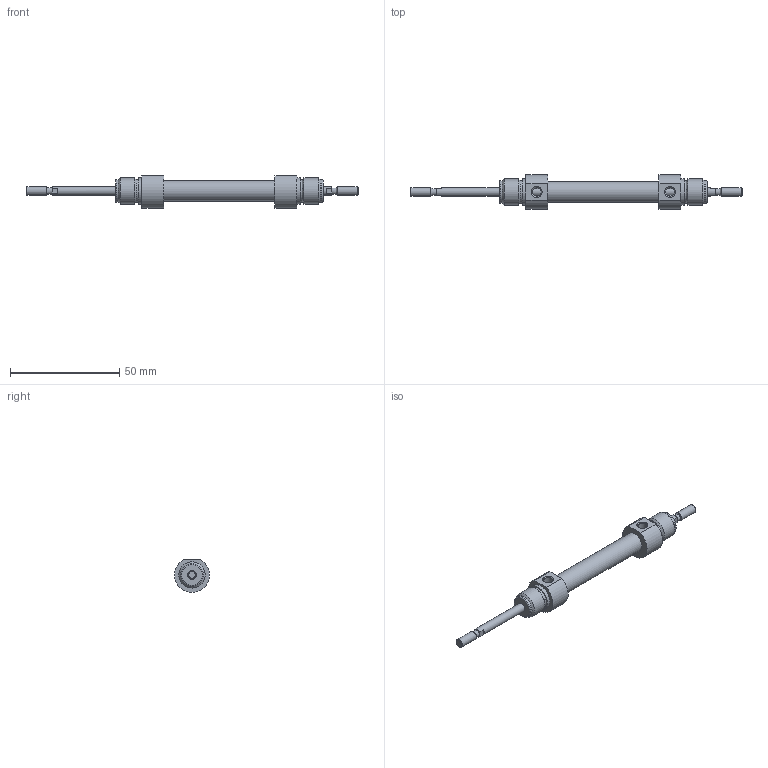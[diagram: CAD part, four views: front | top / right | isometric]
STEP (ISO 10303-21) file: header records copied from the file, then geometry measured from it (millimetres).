
FILE_DESCRIPTION( ( 'STEP AP203' ), '1' );
FILE_NAME( '//expscmdclustefs.cadenas.external/client_exchange/iodir/jobs/output/wkb68261248_no0/STEP/M101-08-0025--__0__2_03.stp', ' ', ( ' ' ), ( ' ' ), 'PSStep 15.0.47', 'PARTsolutions', ' ' );
FILE_SCHEMA( ( 'CONFIG_CONTROL_DESIGN' ) );
Length unit declared in the file: millimetre
Products named in the file (3): M101-08-0025-- [0]; HI_M101-08-0025---[0]-z; HI_M101-08-0025---[0]-k
Assembly tree (2 placements, depth 2):
  M101-08-0025-- [0]
    HI_M101-08-0025---[0]-z
    HI_M101-08-0025---[0]-k
Bounding box: 152 x 15.98 x 14.97 mm (x, y, z)
Volume: 9521.5 mm3; surface area: 7789.7 mm2
Topology: 2 solids, 2 shells, 71 faces, 145 edges, 88 vertices
Faces by surface type: plane 32, cylinder 23, cone 14, torus 2
Full cylindrical faces by diameter (mm): 3.141 x2, 4 x6, 4.134 x2, 8 x2, 9.3 x1, 10.466 x4, 12 x4
Entity records: 1838 total; most frequent: CARTESIAN_POINT 358, DIRECTION 312, ORIENTED_EDGE 212, AXIS2_PLACEMENT_3D 140, EDGE_LOOP 120, EDGE_CURVE 106, FACE_OUTER_BOUND 94, VERTEX_POINT 82
